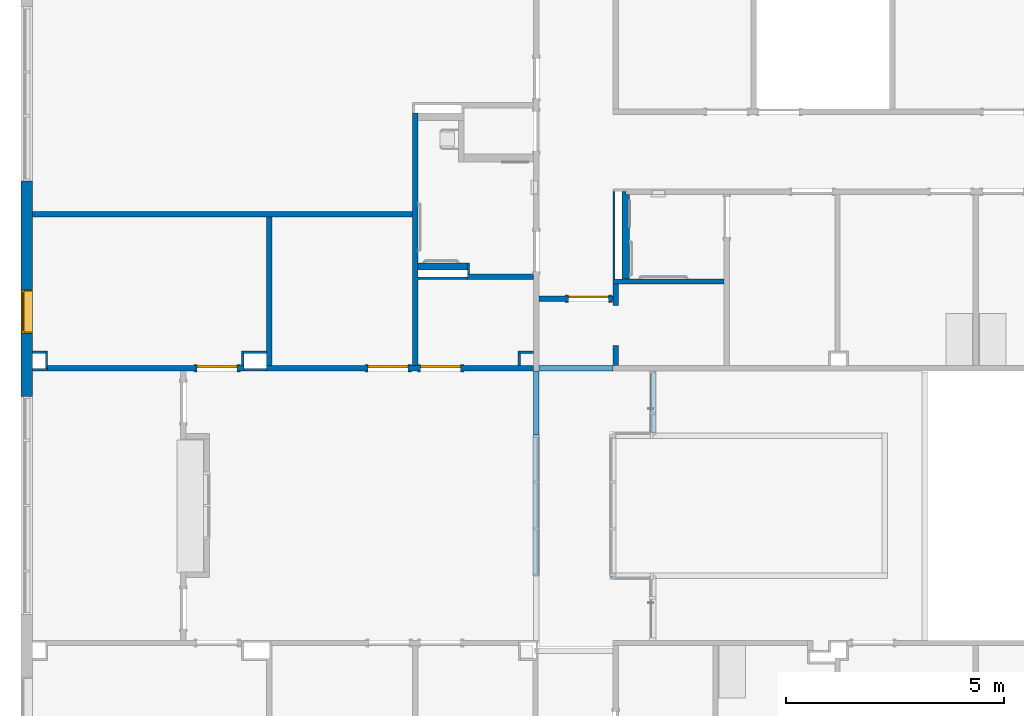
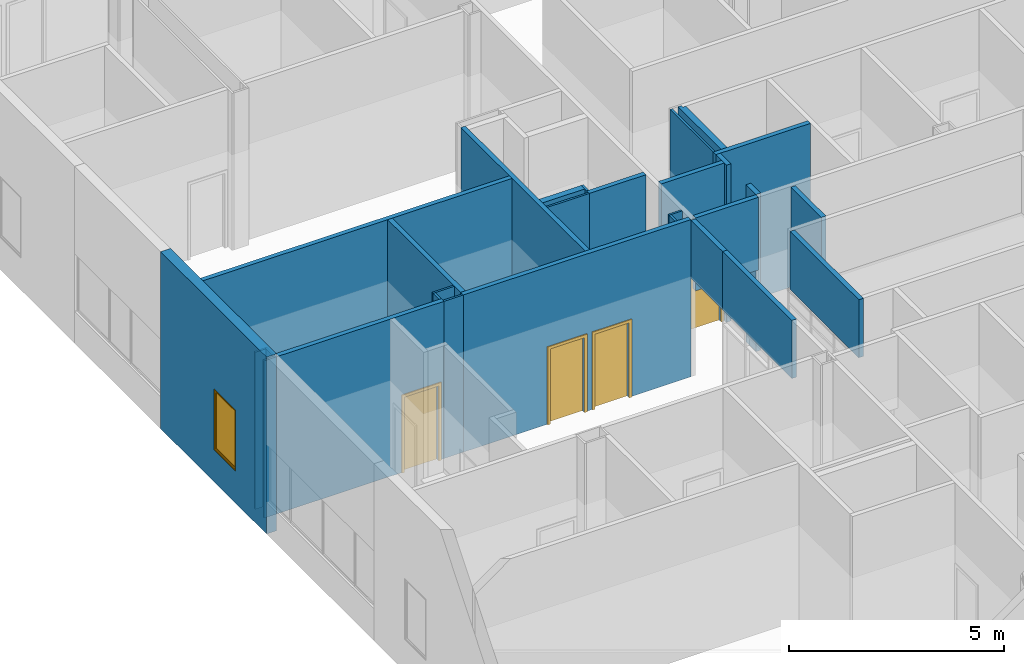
# One storey, part 27 of 82: 29 walls, 4 doors, 1 window, 5 openings.
"""IFC2X3 building model written with IfcOpenShell, lengths in metres."""

from ifc_helpers import new_model, entity, si_unit, converted_unit, frame, frame_2d, origin, origin_2d_with_axis, place, context, project, spatial, polyline, rectangle, outline, extrude, source, transform, mapped, material, layer, layer_set, layer_usage, type_object, type_shapes, element, fill, save


model = new_model("IFC2X3")

# Units and contexts
model_context = context("Model", 3, precision=1e-09, world=origin())
plan_context = context("Plan", 3, precision=1e-09, world=origin())
ifc_project = project(units=[si_unit("LENGTHUNIT", "METRE"), si_unit("AREAUNIT", "SQUARE_METRE"), si_unit("VOLUMEUNIT", "CUBIC_METRE"), converted_unit("PLANEANGLEUNIT", "DEGREE", entity("IfcRatioMeasure", 0.01745329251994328), si_unit("PLANEANGLEUNIT", "RADIAN"), dimensions=[0, 0, 0, 0, 0, 0, 0]), si_unit("TIMEUNIT", "SECOND")], contexts=[model_context, plan_context])

# Site, building, storey
site_placement = place(None, origin())
site = spatial("IfcSite", under=ifc_project, at=site_placement, Name="Default", CompositionType="ELEMENT")
building_placement = place(site_placement, origin())
building = spatial("IfcBuilding", under=site, at=building_placement, CompositionType="ELEMENT")
storey_placement = place(building_placement, origin())
storey = spatial("IfcBuildingStorey", under=building, at=storey_placement, Name="First Floor", CompositionType="ELEMENT", Elevation=-3.531500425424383e-13)

# Wall, openings, doors
ifc_material_1 = material(Name="Plasterboard")
ifc_layer_1 = layer(ifc_material_1, 0.016)
ifc_material_2 = material(Name="Metal - Stud Layer")
ifc_layer_2 = layer(ifc_material_2, 0.092)
ifc_layer_3 = layer(ifc_material_1, 0.016)
ifc_layer_set_1 = layer_set([ifc_layer_1, ifc_layer_2, ifc_layer_3], Name="Basic Wall:Interior - Partition (92mm Stud)")
ifc_layer_usage_1 = layer_usage(ifc_layer_set_1, "AXIS2", "NEGATIVE", 0.062)
wall_1_placement = place(storey_placement, frame((-40.53700000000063, 34.84199999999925, 0.0), z_axis=(0.0, 0.0, 1.0), x_axis=(-1.0, 0.0, 0.0)))
wall_1 = element("IfcWallStandardCase", 1, at=wall_1_placement, inside=storey, material=ifc_layer_usage_1, Name="Basic Wall:Interior - Partition (92mm Stud)", ObjectType="Basic Wall:Interior - Partition (92mm Stud)", context=model_context, shape_type="SweptSolid", body=[
    extrude(rectangle(XDim=6.116999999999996, YDim=0.1239999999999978, at=frame_2d((3.058499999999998, 0.0), x_axis=(-1.0, 0.0))), origin(), (0.0, 0.0, 1.0), 4.468000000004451),
])
opening_1_placement = place(wall_1_placement, frame((2.589, 0.06199999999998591, 0.0)))
opening_1 = element("IfcOpeningElement", 2, at=opening_1_placement, cuts=wall_1, Name="M_Single-Flush:0915 x 2134mm:0915 x 2134mm:1", ObjectType="Opening", context=model_context, shape_type="SweptSolid", body=[
    extrude(rectangle(XDim=0.9149999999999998, YDim=2.134, at=frame_2d((1.067, 0.4574999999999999), x_axis=(0.0, -1.0))), frame((0.0, 0.0, 0.0), z_axis=(0.0, -1.0, 0.0), x_axis=(0.0, 0.0, 1.0)), (0.0, 0.0, 1.0), 0.124),
])
opening_2_placement = place(wall_1_placement, frame((3.787999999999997, 0.06199999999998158, 0.0)))
opening_2 = element("IfcOpeningElement", 3, at=opening_2_placement, cuts=wall_1, Name="M_Single-Flush:0915 x 2134mm:0915 x 2134mm:1", ObjectType="Opening", context=model_context, shape_type="SweptSolid", body=[
    extrude(rectangle(XDim=0.9149999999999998, YDim=2.134, at=frame_2d((1.067, 0.4575), x_axis=(0.0, 1.0))), frame((0.0, 0.0, 0.0), z_axis=(0.0, -1.0, 0.0), x_axis=(0.0, 0.0, 1.0)), (0.0, 0.0, 1.0), 0.124),
])
door_style_1 = type_object("IfcDoorStyle", Name="0915 x 2134mm", ConstructionType="NOTDEFINED", OperationType="SINGLE_SWING_RIGHT", ParameterTakesPrecedence=False, Sizeable=False)
shared_shape_1 = source(origin(), model_context, "Body", "SweptSolid", [
    extrude(outline(polyline([(-0.5335, -1.123999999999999), (0.5334999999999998, -1.123999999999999), (0.5334999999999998, 1.086), (0.4574999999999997, 1.086), (0.4574999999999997, -1.048000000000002), (-0.4574999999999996, -1.048000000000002), (-0.4574999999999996, 1.086), (-0.5335, 1.086), (-0.5335, -1.123999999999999)])), frame((0.4575000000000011, 0.1239999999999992, 1.086), z_axis=(0.0, 1.0, 0.0), x_axis=(1.0, 0.0, 0.0)), (0.0, 0.0, 1.0), 0.02499999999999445),
    extrude(outline(polyline([(-1.123999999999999, -0.5334999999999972), (1.085999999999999, -0.5334999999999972), (1.085999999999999, -0.4575000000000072), (-1.048, -0.4575000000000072), (-1.048, 0.4575000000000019), (1.085999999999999, 0.4575000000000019), (1.085999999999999, 0.5335000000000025), (-1.123999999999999, 0.5335000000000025), (-1.123999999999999, -0.5334999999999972)])), frame((0.4575000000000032, -0.02500000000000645, 1.085999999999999), z_axis=(0.0, 1.0, 0.0), x_axis=(0.0, 0.0, -1.0)), (0.0, 0.0, 1.0), 0.02500000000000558),
    extrude(rectangle(XDim=0.051, YDim=0.9149999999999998, at=origin_2d_with_axis()), frame((0.4575000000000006, 0.09849999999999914, 0.0), z_axis=(0.0, 0.0, 1.0), x_axis=(0.0, 1.0, 0.0)), (0.0, 0.0, 1.0), 2.133999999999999),
])
type_shapes(door_style_1, [shared_shape_1])
door_1_placement = place(opening_2_placement, frame((0.0, 0.0, 0.0), z_axis=(0.0, 0.0, 1.0), x_axis=(-1.0, 0.0, 0.0)))
door_1 = element("IfcDoor", 4, at=door_1_placement, inside=storey, type_object=door_style_1, Name="M_Single-Flush:0915 x 2134mm:0915 x 2134mm", ObjectType="0915 x 2134mm", OverallHeight=2.134, OverallWidth=0.9149999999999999, context=model_context, shape_type="MappedRepresentation", body=[
    mapped(shared_shape_1, transform((0.0, 0.0, 0.0), scale=1.0)),
])
fill(opening_2, door_1)
door_style_2 = type_object("IfcDoorStyle", Name="0915 x 2134mm", ConstructionType="NOTDEFINED", OperationType="SINGLE_SWING_LEFT", ParameterTakesPrecedence=False, Sizeable=False)
shared_shape_2 = source(origin(), model_context, "Body", "SweptSolid", [
    extrude(outline(polyline([(-0.5335, -1.123999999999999), (0.5334999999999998, -1.123999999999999), (0.5334999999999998, 1.086), (0.4574999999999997, 1.086), (0.4574999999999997, -1.048000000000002), (-0.4574999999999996, -1.048000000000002), (-0.4574999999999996, 1.086), (-0.5335, 1.086), (-0.5335, -1.123999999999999)])), frame((0.4575000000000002, 0.1489999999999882, 1.086), z_axis=(0.0, -1.0, 0.0), x_axis=(-1.0, 0.0, 0.0)), (0.0, 0.0, 1.0), 0.02499999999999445),
    extrude(outline(polyline([(-1.123999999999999, -0.5334999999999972), (1.085999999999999, -0.5334999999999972), (1.085999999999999, -0.4575000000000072), (-1.048, -0.4575000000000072), (-1.048, 0.4575000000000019), (1.085999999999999, 0.4575000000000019), (1.085999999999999, 0.5335000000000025), (-1.123999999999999, 0.5335000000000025), (-1.123999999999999, -0.5334999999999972)])), frame((0.4574999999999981, 0.0, 1.085999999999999), z_axis=(0.0, -1.0, 0.0), x_axis=(0.0, 0.0, -1.0)), (0.0, 0.0, 1.0), 0.02500000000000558),
    extrude(rectangle(XDim=0.9149999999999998, YDim=0.051, at=origin_2d_with_axis()), frame((0.4575000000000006, 0.09849999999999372, 0.0)), (0.0, 0.0, 1.0), 2.133999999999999),
])
type_shapes(door_style_2, [shared_shape_2])
door_2_placement = place(opening_1_placement, frame((0.0, 0.0, 0.0), z_axis=(0.0, 0.0, 1.0), x_axis=(-1.0, 0.0, 0.0)))
door_2 = element("IfcDoor", 5, at=door_2_placement, inside=storey, type_object=door_style_2, Name="M_Single-Flush:0915 x 2134mm:0915 x 2134mm", ObjectType="0915 x 2134mm", OverallHeight=2.134, OverallWidth=0.9149999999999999, context=model_context, shape_type="MappedRepresentation", body=[
    mapped(shared_shape_2, transform((0.0, 0.0, 0.0), scale=1.0)),
])
fill(opening_1, door_2)

# Wall
wall_2_placement = place(storey_placement, frame((-43.24800000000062, 34.90399999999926, 0.0), z_axis=(0.0, 0.0, 1.0), x_axis=(0.0, 1.0, 0.0)))
element("IfcWallStandardCase", 6, at=wall_2_placement, inside=storey, material=ifc_layer_usage_1, Name="Basic Wall:Interior - Partition (92mm Stud)", ObjectType="Basic Wall:Interior - Partition (92mm Stud)", context=model_context, shape_type="SweptSolid", body=[
    extrude(rectangle(XDim=5.787399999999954, YDim=0.1240000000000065, at=frame_2d((2.893699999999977, 0.0), x_axis=(-1.0, 0.0))), origin(), (0.0, 0.0, 1.0), 4.468000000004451),
])

# Wall, opening, window
ifc_material_3 = material(Name="Insulation - Insulated Panel")
ifc_layer_4 = layer(ifc_material_3, 0.042)
ifc_material_4 = material(Name="Metal - Firring")
ifc_layer_5 = layer(ifc_material_4, 0.038)
ifc_material_5 = material(Name="Wood - Sheathing - plywood")
ifc_layer_6 = layer(ifc_material_5, 0.019)
ifc_layer_7 = layer(ifc_material_2, 0.152)
ifc_layer_8 = layer(ifc_material_1, 0.016)
ifc_layer_set_2 = layer_set([ifc_layer_4, ifc_layer_5, ifc_layer_6, ifc_layer_7, ifc_layer_8], Name="Basic Wall:Exterior - Insul Panel on Mtl. Stud")
ifc_layer_usage_2 = layer_usage(ifc_layer_set_2, "AXIS2", "NEGATIVE", 0.1335)
wall_3_placement = place(storey_placement, frame((-52.14650000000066, 34.19495592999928, 0.0), z_axis=(0.0, 0.0, 1.0), x_axis=(0.0, 1.0, 0.0)))
wall_3 = element("IfcWallStandardCase", 7, at=wall_3_placement, inside=storey, material=ifc_layer_usage_2, Name="Basic Wall:Exterior - Insul Panel on Mtl. Stud", ObjectType="Basic Wall:Exterior - Insul Panel on Mtl. Stud", context=model_context, shape_type="SweptSolid", body=[
    extrude(rectangle(XDim=4.934996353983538, YDim=0.2670000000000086, at=frame_2d((2.467498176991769, 0.0), x_axis=(-1.0, 0.0))), origin(), (0.0, 0.0, 1.0), 5.02700000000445),
])
opening_3_placement = place(wall_3_placement, frame((1.445044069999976, -0.1335000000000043, 0.9049999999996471)))
opening_3 = element("IfcOpeningElement", 8, at=opening_3_placement, cuts=wall_3, Name=":1", ObjectType="Opening", context=model_context, shape_type="SweptSolid", body=[
    extrude(rectangle(XDim=1.734999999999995, YDim=0.9999999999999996, at=frame_2d((0.8674999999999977, 0.4999999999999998), x_axis=(1.0, 0.0))), frame((0.0, 0.0, 0.0), z_axis=(0.0, 1.0, 0.0), x_axis=(0.0, 0.0, 1.0)), (0.0, 0.0, 1.0), 0.267),
])
window_style = type_object("IfcWindowStyle", Name="1735 x 1000mm", ConstructionType="NOTDEFINED", OperationType="NOTDEFINED", ParameterTakesPrecedence=False, Sizeable=False)
shared_shape_3 = source(origin(), model_context, "Body", "SweptSolid", [
    extrude(rectangle(XDim=0.012, YDim=0.873999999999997, at=origin_2d_with_axis()), frame((0.5000000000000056, 0.2259999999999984, 0.06299999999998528), z_axis=(0.0, 0.0, 1.0), x_axis=(0.0, -1.0, 0.0)), (0.0, 0.0, 1.0), 1.609000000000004),
    extrude(outline(polyline([(-0.4809999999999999, -0.8485000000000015), (0.4809999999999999, -0.8485000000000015), (0.4809999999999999, 0.8485000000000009), (-0.4809999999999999, 0.8485000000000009), (-0.4809999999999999, -0.8485000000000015)]), holes=[polyline([(-0.4369999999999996, -0.8045000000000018), (-0.4369999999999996, 0.8045000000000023), (0.4369999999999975, 0.8045000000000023), (0.4369999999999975, -0.8045000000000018), (-0.4369999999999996, -0.8045000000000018)])]), frame((0.5000000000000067, 0.203999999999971, 0.8674999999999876), z_axis=(0.0, 1.0, 0.0), x_axis=(1.0, 0.0, 0.0)), (0.0, 0.0, 1.0), 0.04400000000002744),
    extrude(outline(polyline([(-0.4999999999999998, -0.8674999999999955), (0.4999999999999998, -0.8674999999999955), (0.4999999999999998, 0.8674999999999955), (-0.4999999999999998, 0.8674999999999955), (-0.4999999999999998, -0.8674999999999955)]), holes=[polyline([(-0.4810000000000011, -0.8484999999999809), (-0.4810000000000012, 0.8485000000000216), (0.4809999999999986, 0.8485000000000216), (0.4809999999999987, -0.8484999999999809), (-0.4810000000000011, -0.8484999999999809)])]), frame((0.500000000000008, 0.203999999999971, 0.8675000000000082), z_axis=(0.0, 1.0, 0.0), x_axis=(1.0, 0.0, 0.0)), (0.0, 0.0, 1.0), 0.06300000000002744),
    extrude(outline(polyline([(-0.5000000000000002, -0.867499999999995), (0.5000000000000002, -0.867499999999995), (0.5000000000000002, 0.867499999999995), (-0.5000000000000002, 0.867499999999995), (-0.5000000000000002, -0.867499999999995)]), holes=[polyline([(-0.4679999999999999, -0.8354999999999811), (-0.4679999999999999, 0.8355000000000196), (0.4680000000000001, 0.8355000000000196), (0.4680000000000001, -0.8354999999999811), (-0.4679999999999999, -0.8354999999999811)])]), frame((0.5000000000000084, 0.0, 0.8675000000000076), z_axis=(0.0, 1.0, 0.0), x_axis=(1.0, 0.0, 0.0)), (0.0, 0.0, 1.0), 0.2039999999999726),
])
type_shapes(window_style, [shared_shape_3])
window_placement = place(opening_3_placement, origin())
window = element("IfcWindow", 9, at=window_placement, inside=storey, type_object=window_style, Name="M_Fixed:1735 x 1000mm:1735 x 1000mm", ObjectType="1735 x 1000mm", OverallHeight=1.734999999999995, OverallWidth=0.9999999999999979, context=model_context, shape_type="MappedRepresentation", body=[
    mapped(shared_shape_3, transform((0.0, 0.0, 0.0), scale=1.0)),
])
fill(opening_3, window)

# Wall, opening, door
wall_4_placement = place(storey_placement, frame((-47.17600000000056, 34.84199999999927, 0.0), z_axis=(0.0, 0.0, 1.0), x_axis=(-1.0, 0.0, 0.0)))
wall_4 = element("IfcWallStandardCase", 10, at=wall_4_placement, inside=storey, material=ifc_layer_usage_1, Name="Basic Wall:Interior - Partition (92mm Stud)", ObjectType="Basic Wall:Interior - Partition (92mm Stud)", context=model_context, shape_type="SweptSolid", body=[
    extrude(rectangle(XDim=4.49400000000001, YDim=0.1239999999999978, at=frame_2d((2.247000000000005, 0.0), x_axis=(-1.0, 0.0))), origin(), (0.0, 0.0, 1.0), 4.468000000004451),
])
opening_4_placement = place(wall_4_placement, frame((1.069000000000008, 0.06199999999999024, 0.0)))
opening_4 = element("IfcOpeningElement", 11, at=opening_4_placement, cuts=wall_4, Name=":1", ObjectType="Opening", context=model_context, shape_type="SweptSolid", body=[
    extrude(rectangle(XDim=0.9149999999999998, YDim=2.134, at=frame_2d((1.067, 0.4575), x_axis=(0.0, 1.0))), frame((0.0, 0.0, 0.0), z_axis=(0.0, -1.0, 0.0), x_axis=(0.0, 0.0, 1.0)), (0.0, 0.0, 1.0), 0.124),
])
door_3_placement = place(opening_4_placement, frame((0.0, 0.0, 0.0), z_axis=(0.0, 0.0, 1.0), x_axis=(-1.0, 0.0, 0.0)))
door_3 = element("IfcDoor", 12, at=door_3_placement, inside=storey, type_object=door_style_1, Name="M_Single-Flush:0915 x 2134mm:0915 x 2134mm", ObjectType="0915 x 2134mm", OverallHeight=2.134, OverallWidth=0.9149999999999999, context=model_context, shape_type="MappedRepresentation", body=[
    mapped(shared_shape_1, transform((0.0, 0.0, 0.0), scale=1.0)),
])
fill(opening_4, door_3)

# Walls
wall_5_placement = place(storey_placement, frame((-46.59200000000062, 38.30599999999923, 0.0), z_axis=(0.0, 0.0, 1.0), x_axis=(0.0, -1.0, 0.0)))
element("IfcWallStandardCase", 13, at=wall_5_placement, inside=storey, material=ifc_layer_usage_1, Name="Basic Wall:Interior - Partition (92mm Stud)", ObjectType="Basic Wall:Interior - Partition (92mm Stud)", context=model_context, shape_type="SweptSolid", body=[
    extrude(rectangle(XDim=3.401999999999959, YDim=0.1240000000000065, at=frame_2d((1.700999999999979, 0.0), x_axis=(-1.0, 0.0))), origin(), (0.0, 0.0, 1.0), 4.46800000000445),
])
wall_6_placement = place(storey_placement, frame((-36.17400000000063, 36.83199999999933, 0.0), z_axis=(0.0, 0.0, 1.0), x_axis=(-1.0, 0.0, 0.0)))
element("IfcWallStandardCase", 14, at=wall_6_placement, inside=storey, material=ifc_layer_usage_1, Name="Basic Wall:Interior - Partition (92mm Stud)", ObjectType="Basic Wall:Interior - Partition (92mm Stud)", context=model_context, shape_type="SweptSolid", body=[
    extrude(rectangle(XDim=2.545999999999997, YDim=0.1239999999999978, at=frame_2d((1.272999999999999, 0.0), x_axis=(-1.0, 0.0))), origin(), (0.0, 0.0, 1.0), 4.46800000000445),
])
wall_7_placement = place(storey_placement, frame((-38.65800000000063, 36.27749999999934, 0.0), z_axis=(0.0, 0.0, 1.0), x_axis=(0.0, 1.0, 0.0)))
element("IfcWallStandardCase", 15, at=wall_7_placement, inside=storey, material=ifc_layer_usage_1, Name="Basic Wall:Interior - Partition (92mm Stud)", ObjectType="Basic Wall:Interior - Partition (92mm Stud)", context=model_context, shape_type="SweptSolid", body=[
    extrude(rectangle(XDim=0.492500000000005, YDim=0.1239999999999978, at=frame_2d((0.2462500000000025, 0.0), x_axis=(-1.0, 0.0))), origin(), (0.0, 0.0, 1.0), 4.468000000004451),
])
wall_8_placement = place(storey_placement, frame((-38.72000000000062, 34.84154814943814, 2.4), z_axis=(0.0, 0.0, 1.0), x_axis=(-1.0, 0.0, 0.0)))
element("IfcWallStandardCase", 16, at=wall_8_placement, inside=storey, material=ifc_layer_usage_1, Name="Basic Wall:Interior - Partition (92mm Stud)", ObjectType="Basic Wall:Interior - Partition (92mm Stud)", context=model_context, shape_type="SweptSolid", body=[
    extrude(rectangle(XDim=1.693000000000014, YDim=0.1239999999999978, at=frame_2d((0.8465000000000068, 0.0), x_axis=(-1.0, 0.0))), origin(), (0.0, 0.0, 1.0), 2.06800000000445),
])
ifc_layer_9 = layer(ifc_material_2, 0.038)
ifc_layer_10 = layer(ifc_material_1, 0.016)
ifc_layer_set_3 = layer_set([ifc_layer_9, ifc_layer_10], Name="Basic Wall:Interior - Furring (38 mm Stud)")
ifc_layer_usage_3 = layer_usage(ifc_layer_set_3, "AXIS2", "NEGATIVE", 0.027)
wall_9_placement = place(storey_placement, frame((-47.17600000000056, 34.80699999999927, 0.0)))
element("IfcWallStandardCase", 17, at=wall_9_placement, inside=storey, material=ifc_layer_usage_3, Name="Basic Wall:Interior - Furring (38 mm Stud)", ObjectType="Basic Wall:Interior - Furring (38 mm Stud)", context=model_context, shape_type="SweptSolid", body=[
    extrude(rectangle(XDim=0.5219999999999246, YDim=0.05399999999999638, at=frame_2d((0.2609999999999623, 0.0), x_axis=(-1.0, 0.0))), origin(), (0.0, 0.0, 1.0), 4.46800000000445),
])
wall_10_placement = place(storey_placement, frame((-52.01300000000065, 38.36799999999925, 0.0)))
element("IfcWallStandardCase", 18, at=wall_10_placement, inside=storey, material=ifc_layer_usage_1, Name="Basic Wall:Interior - Partition (92mm Stud)", ObjectType="Basic Wall:Interior - Partition (92mm Stud)", context=model_context, shape_type="SweptSolid", body=[
    extrude(rectangle(XDim=8.70300000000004, YDim=0.1239999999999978, at=frame_2d((4.35150000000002, 0.0), x_axis=(-1.0, 0.0))), origin(), (0.0, 0.0, 1.0), 4.468000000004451),
])
wall_11_placement = place(storey_placement, frame((-38.69300000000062, 38.89599999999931, 0.0), z_axis=(0.0, 0.0, 1.0), x_axis=(0.0, -1.0, 0.0)))
element("IfcWallStandardCase", 19, at=wall_11_placement, inside=storey, material=ifc_layer_usage_3, Name="Basic Wall:Interior - Furring (38 mm Stud)", ObjectType="Basic Wall:Interior - Furring (38 mm Stud)", context=model_context, shape_type="SweptSolid", body=[
    extrude(rectangle(XDim=2.001999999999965, YDim=0.05399999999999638, at=frame_2d((1.000999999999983, 0.0), x_axis=(-1.0, 0.0))), origin(), (0.0, 0.0, 1.0), 4.46800000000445),
])
ifc_layer_usage_4 = layer_usage(ifc_layer_set_3, "AXIS2", "POSITIVE", -0.027)
wall_12_placement = place(storey_placement, frame((-42.05400000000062, 36.90699999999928, 0.0), z_axis=(0.0, 0.0, 1.0), x_axis=(-1.0, 0.0, 0.0)))
element("IfcWallStandardCase", 20, at=wall_12_placement, inside=storey, material=ifc_layer_usage_4, Name="Basic Wall:Interior - Furring (38 mm Stud)", ObjectType="Basic Wall:Interior - Furring (38 mm Stud)", context=model_context, shape_type="SweptSolid", body=[
    extrude(rectangle(XDim=1.132000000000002, YDim=0.05399999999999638, at=frame_2d((0.5660000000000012, 0.0), x_axis=(-1.0, 0.0))), origin(), (0.0, 0.0, 1.0), 4.46800000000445),
])
wall_13_placement = place(storey_placement, frame((-40.53700000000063, 36.94199999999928, 0.0), z_axis=(0.0, 0.0, 1.0), x_axis=(-1.0, 0.0, 0.0)))
element("IfcWallStandardCase", 21, at=wall_13_placement, inside=storey, material=ifc_layer_usage_1, Name="Basic Wall:Interior - Partition (92mm Stud)", ObjectType="Basic Wall:Interior - Partition (92mm Stud)", context=model_context, shape_type="SweptSolid", body=[
    extrude(rectangle(XDim=1.516999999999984, YDim=0.1239999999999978, at=frame_2d((0.7584999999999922, 0.0), x_axis=(-1.0, 0.0))), origin(), (0.0, 0.0, 1.0), 4.46800000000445),
])
wall_14_placement = place(storey_placement, frame((-40.47500000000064, 34.77999999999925, 2.8), z_axis=(0.0, 0.0, 1.0), x_axis=(0.0, -1.0, 0.0)))
element("IfcWallStandardCase", 22, at=wall_14_placement, inside=storey, material=ifc_layer_usage_1, Name="Basic Wall:Interior - Partition (92mm Stud)", ObjectType="Basic Wall:Interior - Partition (92mm Stud)", context=model_context, shape_type="SweptSolid", body=[
    extrude(rectangle(XDim=1.46999999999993, YDim=0.1240000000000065, at=frame_2d((0.734999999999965, 0.0), x_axis=(-1.0, 0.0))), origin(), (0.0, 0.0, 1.0), 1.650000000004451),
])
wall_15_placement = place(storey_placement, frame((-38.65800000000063, 34.90354814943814, 0.0), z_axis=(0.0, 0.0, 1.0), x_axis=(0.0, 1.0, 0.0)))
element("IfcWallStandardCase", 23, at=wall_15_placement, inside=storey, material=ifc_layer_usage_1, Name="Basic Wall:Interior - Partition (92mm Stud)", ObjectType="Basic Wall:Interior - Partition (92mm Stud)", context=model_context, shape_type="SweptSolid", body=[
    extrude(rectangle(XDim=0.4589518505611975, YDim=0.1239999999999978, at=frame_2d((0.2294759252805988, 0.0), x_axis=(-1.0, 0.0))), origin(), (0.0, 0.0, 1.0), 4.46800000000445),
])
wall_16_placement = place(storey_placement, frame((-42.02700000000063, 37.25999999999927, 0.0), z_axis=(0.0, 0.0, 1.0), x_axis=(0.0, -1.0, 0.0)))
element("IfcWallStandardCase", 24, at=wall_16_placement, inside=storey, material=ifc_layer_usage_4, Name="Basic Wall:Interior - Furring (38 mm Stud)", ObjectType="Basic Wall:Interior - Furring (38 mm Stud)", context=model_context, shape_type="SweptSolid", body=[
    extrude(rectangle(XDim=0.2559999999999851, YDim=0.05400000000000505, at=frame_2d((0.1279999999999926, 0.0), x_axis=(-1.0, 0.0))), origin(), (0.0, 0.0, 1.0), 4.468000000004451),
])
ifc_layer_11 = layer(ifc_material_2, 0.152)
ifc_layer_12 = layer(ifc_material_1, 0.016)
ifc_layer_set_4 = layer_set([ifc_layer_11, ifc_layer_12], Name="Basic Wall:Interior - Furring (152 mm Stud)")
ifc_layer_usage_5 = layer_usage(ifc_layer_set_4, "AXIS2", "POSITIVE", -0.08399999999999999)
wall_17_placement = place(storey_placement, frame((-38.42400000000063, 38.89599999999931, 0.0), z_axis=(0.0, 0.0, 1.0), x_axis=(0.0, -1.0, 0.0)))
element("IfcWallStandardCase", 25, at=wall_17_placement, inside=storey, material=ifc_layer_usage_5, Name="Basic Wall:Interior - Furring (152 mm Stud)", ObjectType="Basic Wall:Interior - Furring (152 mm Stud)", context=model_context, shape_type="SweptSolid", body=[
    extrude(outline(polyline([(2.001999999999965, -0.08400000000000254), (2.001999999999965, 0.08399999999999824), (0.07000000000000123, 0.08399999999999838), (0.07000000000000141, 0.0), (0.0, 0.0), (0.0, -0.08400000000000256), (2.001999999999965, -0.08400000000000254)])), origin(), (0.0, 0.0, 1.0), 4.468000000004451),
])

# Wall, opening, door
wall_18_placement = place(storey_placement, frame((-38.72000000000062, 36.43949999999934, 0.0), z_axis=(0.0, 0.0, 1.0), x_axis=(-1.0, 0.0, 0.0)))
wall_18 = element("IfcWallStandardCase", 26, at=wall_18_placement, inside=storey, material=ifc_layer_usage_1, Name="Basic Wall:Interior - Partition (92mm Stud)", ObjectType="Basic Wall:Interior - Partition (92mm Stud)", context=model_context, shape_type="SweptSolid", body=[
    extrude(rectangle(XDim=1.693000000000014, YDim=0.1239999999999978, at=frame_2d((0.8465000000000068, 0.0), x_axis=(-1.0, 0.0))), origin(), (0.0, 0.0, 1.0), 4.46800000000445),
])
opening_5_placement = place(wall_18_placement, frame((1.015000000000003, 0.06199999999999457, 0.0)))
opening_5 = element("IfcOpeningElement", 27, at=opening_5_placement, cuts=wall_18, Name="M_Single-Flush:0915 x 2134mm:0915 x 2134mm:1", ObjectType="Opening", context=model_context, shape_type="SweptSolid", body=[
    extrude(rectangle(XDim=0.9149999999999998, YDim=2.134, at=frame_2d((1.067, 0.4575), x_axis=(0.0, 1.0))), frame((0.0, 0.0, 0.0), z_axis=(0.0, -1.0, 0.0), x_axis=(0.0, 0.0, 1.0)), (0.0, 0.0, 1.0), 0.124),
])
door_4_placement = place(opening_5_placement, frame((0.0, 0.0, 0.0), z_axis=(0.0, 0.0, 1.0), x_axis=(-1.0, 0.0, 0.0)))
door_4 = element("IfcDoor", 28, at=door_4_placement, inside=storey, type_object=door_style_1, Name="M_Single-Flush:0915 x 2134mm:0915 x 2134mm", ObjectType="0915 x 2134mm", OverallHeight=2.134, OverallWidth=0.9149999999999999, context=model_context, shape_type="MappedRepresentation", body=[
    mapped(shared_shape_1, transform((0.0, 0.0, 0.0), scale=1.0)),
])
fill(opening_5, door_4)

# Walls
wall_19_placement = place(storey_placement, frame((-51.69700000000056, 34.83399999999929, 0.0), z_axis=(0.0, 0.0, 1.0), x_axis=(0.0, 1.0, 0.0)))
element("IfcWallStandardCase", 29, at=wall_19_placement, inside=storey, material=ifc_layer_usage_3, Name="Basic Wall:Interior - Furring (38 mm Stud)", ObjectType="Basic Wall:Interior - Furring (38 mm Stud)", context=model_context, shape_type="SweptSolid", body=[
    extrude(rectangle(XDim=0.4059999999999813, YDim=0.05400000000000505, at=frame_2d((0.2029999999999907, 0.0), x_axis=(-1.0, 0.0))), origin(), (0.0, 0.0, 1.0), 4.468000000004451),
])
wall_20_placement = place(storey_placement, frame((-52.01300000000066, 34.80699999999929, 0.0)))
element("IfcWallStandardCase", 30, at=wall_20_placement, inside=storey, material=ifc_layer_usage_3, Name="Basic Wall:Interior - Furring (38 mm Stud)", ObjectType="Basic Wall:Interior - Furring (38 mm Stud)", context=model_context, shape_type="SweptSolid", body=[
    extrude(rectangle(XDim=0.3430000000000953, YDim=0.05399999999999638, at=frame_2d((0.1715000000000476, 0.0), x_axis=(-1.0, 0.0))), origin(), (0.0, 0.0, 1.0), 4.46800000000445),
])
wall_21_placement = place(storey_placement, frame((-47.20300000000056, 35.18599999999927, 0.0), z_axis=(0.0, 0.0, 1.0), x_axis=(0.0, -1.0, 0.0)))
element("IfcWallStandardCase", 31, at=wall_21_placement, inside=storey, material=ifc_layer_usage_3, Name="Basic Wall:Interior - Furring (38 mm Stud)", ObjectType="Basic Wall:Interior - Furring (38 mm Stud)", context=model_context, shape_type="SweptSolid", body=[
    extrude(rectangle(XDim=0.2819999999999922, YDim=0.05400000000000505, at=frame_2d((0.1409999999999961, 0.0), x_axis=(-1.0, 0.0))), origin(), (0.0, 0.0, 1.0), 4.46800000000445),
])
wall_22_placement = place(storey_placement, frame((-43.18600000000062, 37.17599999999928, 0.0)))
element("IfcWallStandardCase", 32, at=wall_22_placement, inside=storey, material=ifc_layer_usage_5, Name="Basic Wall:Interior - Furring (152 mm Stud)", ObjectType="Basic Wall:Interior - Furring (152 mm Stud)", context=model_context, shape_type="SweptSolid", body=[
    extrude(rectangle(XDim=1.132000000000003, YDim=0.1679999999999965, at=frame_2d((0.5660000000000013, 0.0), x_axis=(-1.0, 0.0))), origin(), (0.0, 0.0, 1.0), 4.46800000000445),
])
wall_23_placement = place(storey_placement, frame((-51.72400000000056, 35.21299999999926, 0.0), z_axis=(0.0, 0.0, 1.0), x_axis=(-1.0, 0.0, 0.0)))
element("IfcWallStandardCase", 33, at=wall_23_placement, inside=storey, material=ifc_layer_usage_3, Name="Basic Wall:Interior - Furring (38 mm Stud)", ObjectType="Basic Wall:Interior - Furring (38 mm Stud)", context=model_context, shape_type="SweptSolid", body=[
    extrude(rectangle(XDim=0.2890000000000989, YDim=0.05399999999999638, at=frame_2d((0.1445000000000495, 0.0), x_axis=(-1.0, 0.0))), origin(), (0.0, 0.0, 1.0), 4.46800000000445),
])
wall_24_placement = place(storey_placement, frame((-46.65400000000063, 35.21299999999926, 0.0), z_axis=(0.0, 0.0, 1.0), x_axis=(-1.0, 0.0, 0.0)))
element("IfcWallStandardCase", 34, at=wall_24_placement, inside=storey, material=ifc_layer_usage_3, Name="Basic Wall:Interior - Furring (38 mm Stud)", ObjectType="Basic Wall:Interior - Furring (38 mm Stud)", context=model_context, shape_type="SweptSolid", body=[
    extrude(rectangle(XDim=0.575999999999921, YDim=0.05399999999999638, at=frame_2d((0.2879999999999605, 0.0), x_axis=(-1.0, 0.0))), origin(), (0.0, 0.0, 1.0), 4.468000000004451),
])
wall_25_placement = place(storey_placement, frame((-40.53700000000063, 35.21299999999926, 0.0), z_axis=(0.0, 0.0, 1.0), x_axis=(-1.0, 0.0, 0.0)))
element("IfcWallStandardCase", 35, at=wall_25_placement, inside=storey, material=ifc_layer_usage_3, Name="Basic Wall:Interior - Furring (38 mm Stud)", ObjectType="Basic Wall:Interior - Furring (38 mm Stud)", context=model_context, shape_type="SweptSolid", body=[
    extrude(rectangle(XDim=0.3529999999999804, YDim=0.05399999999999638, at=frame_2d((0.1764999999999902, 0.0), x_axis=(-1.0, 0.0))), origin(), (0.0, 0.0, 1.0), 4.46800000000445),
])
wall_26_placement = place(storey_placement, frame((-40.86300000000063, 35.18599999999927, 0.0), z_axis=(0.0, 0.0, 1.0), x_axis=(0.0, -1.0, 0.0)))
element("IfcWallStandardCase", 36, at=wall_26_placement, inside=storey, material=ifc_layer_usage_3, Name="Basic Wall:Interior - Furring (38 mm Stud)", ObjectType="Basic Wall:Interior - Furring (38 mm Stud)", context=model_context, shape_type="SweptSolid", body=[
    extrude(rectangle(XDim=0.2820000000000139, YDim=0.05400000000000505, at=frame_2d((0.1410000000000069, 0.0), x_axis=(-1.0, 0.0))), origin(), (0.0, 0.0, 1.0), 4.46800000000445),
])
wall_27_placement = place(storey_placement, frame((-40.47500000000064, 33.30999999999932, 2.8), z_axis=(0.0, 0.0, 1.0), x_axis=(0.0, -1.0, 0.0)))
element("IfcWallStandardCase", 37, at=wall_27_placement, inside=storey, material=ifc_layer_usage_1, Name="Basic Wall:Interior - Partition (92mm Stud)", ObjectType="Basic Wall:Interior - Partition (92mm Stud)", context=model_context, shape_type="SweptSolid", body=[
    extrude(rectangle(XDim=3.23000000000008, YDim=0.1240000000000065, at=frame_2d((1.61500000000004, 0.0), x_axis=(-1.0, 0.0))), origin(), (0.0, 0.0, 1.0), 1.650000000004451),
])
wall_28_placement = place(storey_placement, frame((-38.70700000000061, 33.23499999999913, 2.8), z_axis=(0.0, 0.0, 1.0), x_axis=(0.0, -1.0, 0.0)))
element("IfcWallStandardCase", 38, at=wall_28_placement, inside=storey, material=ifc_layer_usage_1, Name="Basic Wall:Interior - Partition (92mm Stud)", ObjectType="Basic Wall:Interior - Partition (92mm Stud)", context=model_context, shape_type="SweptSolid", body=[
    extrude(rectangle(XDim=3.203999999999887, YDim=0.1239999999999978, at=frame_2d((1.601999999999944, 0.0), x_axis=(-1.0, 0.0))), origin(), (0.0, 0.0, 1.0), 1.650000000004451),
])
wall_29_placement = place(storey_placement, frame((-37.79200000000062, 34.77954814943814, 2.8), z_axis=(0.0, 0.0, 1.0), x_axis=(0.0, -1.0, 0.0)))
element("IfcWallStandardCase", 39, at=wall_29_placement, inside=storey, material=ifc_layer_usage_1, Name="Basic Wall:Interior - Partition (92mm Stud)", ObjectType="Basic Wall:Interior - Partition (92mm Stud)", context=model_context, shape_type="SweptSolid", body=[
    extrude(rectangle(XDim=1.420548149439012, YDim=0.1239999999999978, at=frame_2d((0.710274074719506, 0.0), x_axis=(-1.0, 0.0))), origin(), (0.0, 0.0, 1.0), 1.650000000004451),
])

save(model, "model.ifc")
